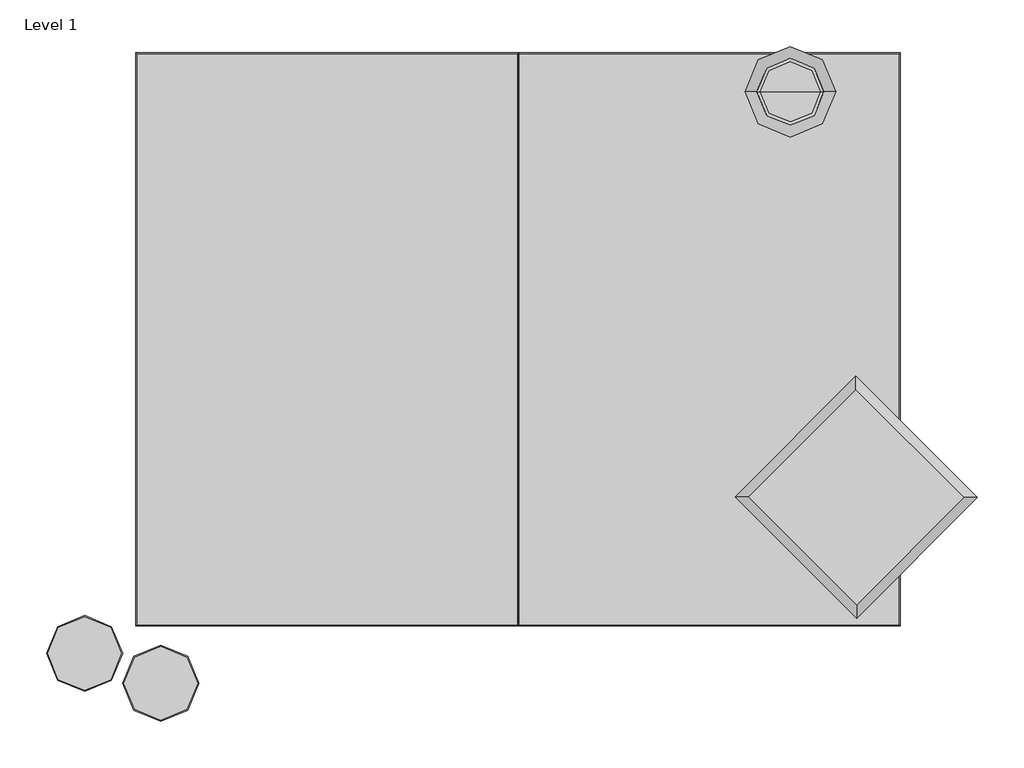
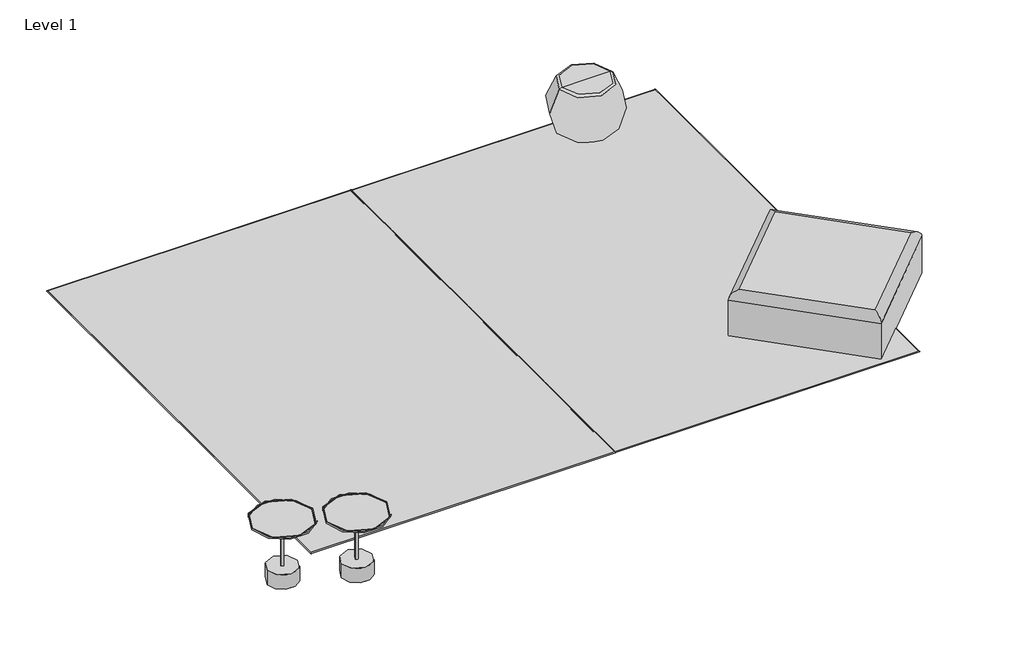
# One storey, incomplete: 6 furniture elements.
"""IFC4 building model written with IfcOpenShell, lengths in millimetres."""

from ifc_helpers import new_model, si_unit, origin, place, context, project, spatial, transform, mapped, element, save
from components import furniture_9a83f1f0, furniture_aebbd6c7, furniture_dc67d0dc, haworth_9_occasionaltable_6362c3d7

model = new_model("IFC4")

# Units and contexts
model_context = context("Model", 3, world=origin())
ifc_project = project(units=[si_unit("LENGTHUNIT", "METRE", prefix="MILLI")], contexts=[model_context])

# Site, building, storey
site = spatial("IfcSite", under=ifc_project)
building = spatial("IfcBuilding", under=site)
storey = spatial("IfcBuildingStorey", under=building, Name="Level 1", Elevation=0.0)

# Furniture
placement = place(None, origin())
furniture_shape = furniture_9a83f1f0(model_context)
element("IfcFurniture", 1, ObjectType="Haworth_MangasSpace_Pouf_Plait : HCGN-MSFP - Plait Pouf", at=placement, inside=storey, context=model_context, shape_type="MappedRepresentation", body=[
    mapped(furniture_shape, transform((1749.8139515, -840.2281506, 0.0), x_axis=(0.7071068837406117, 0.7071066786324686, 0.0), y_axis=(-0.7071066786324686, 0.7071068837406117, 0.0), z_axis=(0.0, 0.0, 1.0))),
])
furniture_2_shape = furniture_aebbd6c7(model_context)
element("IfcFurniture", 2, ObjectType="Haworth_MangasNatural_Rugs : HCGN-MNT Area Rug", at=placement, inside=storey, context=model_context, shape_type="MappedRepresentation", body=[
    mapped(furniture_2_shape, transform((-721.152898, 1245.7104172, 0.0), x_axis=(0.0, -1.0, 0.0), y_axis=(1.0, 0.0, 0.0), z_axis=(0.0, 0.0, 1.0))),
])
element("IfcFurniture", 3, ObjectType="Haworth_MangasNatural_Rugs : HCGN-MNT Area Rug", at=placement, inside=storey, context=model_context, shape_type="MappedRepresentation", body=[
    mapped(furniture_2_shape, transform((1278.8471173, 1245.7104172, 0.0), x_axis=(0.0, -1.0, 0.0), y_axis=(1.0, 0.0, 0.0), z_axis=(0.0, 0.0, 1.0))),
])
furniture_3_shape = furniture_dc67d0dc(model_context)
element("IfcFurniture", 4, ObjectType="Haworth_Bong_Table : HCCE-BNGP", at=placement, inside=storey, context=model_context, shape_type="MappedRepresentation", body=[
    mapped(furniture_3_shape, transform((1705.473912, 1343.8939024, 0.0), x_axis=(1.0, 0.0, 0.0), y_axis=(0.0, 1.0, 0.0), z_axis=(0.0, 0.0, 1.0))),
])
haworth_9_occasionaltable_shape = haworth_9_occasionaltable_6362c3d7(model_context)
element("IfcFurniture", 5, ObjectType="Haworth_9_OccasionalTable : Low Occasional Table -  Stone Top And Base", at=placement, inside=storey, context=model_context, shape_type="MappedRepresentation", body=[
    mapped(haworth_9_occasionaltable_shape, transform((-1839.5794017, -1311.4567507, 0.0), x_axis=(1.0, 0.0, 0.0), y_axis=(0.0, 1.0, 0.0), z_axis=(0.0, 0.0, 1.0))),
])
element("IfcFurniture", 6, ObjectType="Haworth_9_OccasionalTable : Low Occasional Table -  Stone Top And Base", at=placement, inside=storey, context=model_context, shape_type="MappedRepresentation", body=[
    mapped(haworth_9_occasionaltable_shape, transform((-1439.725625, -1467.5203855, 0.0), x_axis=(1.0, 0.0, 0.0), y_axis=(0.0, 1.0, 0.0), z_axis=(0.0, 0.0, 1.0))),
])

save(model, "model.ifc")
